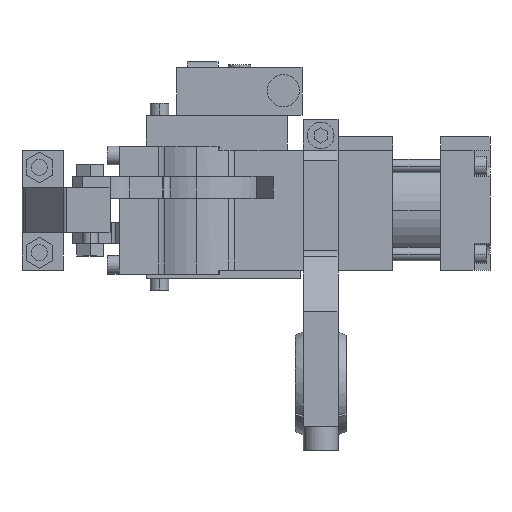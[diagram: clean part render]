
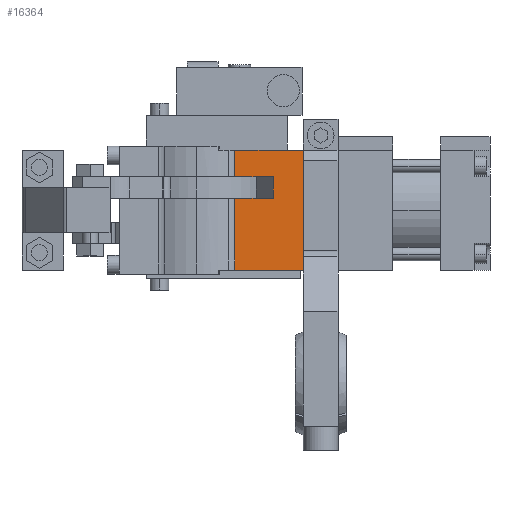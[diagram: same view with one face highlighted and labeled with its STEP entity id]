
A CAD part, left-side view. The second image highlights one B-rep face of the part: STEP entity #16364.
In plain terms, the highlighted planar face has unit normal (-1, 0, 0).
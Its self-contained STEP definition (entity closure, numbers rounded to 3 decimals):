
#50 = EDGE_CURVE ( 'NONE', #1057, #9130, #1426, .T. ) ;
#550 = ORIENTED_EDGE ( 'NONE', *, *, #50, .T. ) ;
#1057 = VERTEX_POINT ( 'NONE', #7237 ) ;
#1245 = LINE ( 'NONE', #8623, #8715 ) ;
#1295 = EDGE_CURVE ( 'NONE', #5122, #3365, #5116, .T. ) ;
#1426 = LINE ( 'NONE', #3435, #9907 ) ;
#1569 = VERTEX_POINT ( 'NONE', #9025 ) ;
#1721 = AXIS2_PLACEMENT_3D ( 'NONE', #13114, #6839, #17854 ) ;
#2025 = PLANE ( 'NONE',  #1721 ) ;
#2440 = EDGE_CURVE ( 'NONE', #3422, #19897, #1245, .T. ) ;
#3021 = EDGE_CURVE ( 'NONE', #1569, #5122, #9949, .T. ) ;
#3365 = VERTEX_POINT ( 'NONE', #20209 ) ;
#3422 = VERTEX_POINT ( 'NONE', #16602 ) ;
#3435 = CARTESIAN_POINT ( 'NONE',  ( -22.5, -40., -22.5 ) ) ;
#4516 = LINE ( 'NONE', #16299, #9224 ) ;
#5116 = LINE ( 'NONE', #15178, #13028 ) ;
#5122 = VERTEX_POINT ( 'NONE', #9870 ) ;
#5449 = CARTESIAN_POINT ( 'NONE',  ( -22.5, -40., -22.5 ) ) ;
#5827 = EDGE_CURVE ( 'NONE', #1569, #9130, #4516, .T. ) ;
#5977 = LINE ( 'NONE', #7955, #10182 ) ;
#6225 = VECTOR ( 'NONE', #10521, 1000. ) ;
#6364 = ORIENTED_EDGE ( 'NONE', *, *, #3021, .T. ) ;
#6839 = DIRECTION ( 'NONE',  ( 1., 0., 0. ) ) ;
#6861 = DIRECTION ( 'NONE',  ( 0., 0., -1. ) ) ;
#7237 = CARTESIAN_POINT ( 'NONE',  ( -22.5, -14.309, -22.5 ) ) ;
#7245 = VECTOR ( 'NONE', #8260, 1000. ) ;
#7955 = CARTESIAN_POINT ( 'NONE',  ( -22.5, -14.309, 12.5 ) ) ;
#8260 = DIRECTION ( 'NONE',  ( 0., 0., 1. ) ) ;
#8623 = CARTESIAN_POINT ( 'NONE',  ( -22.5, -14.309, 4.5 ) ) ;
#8715 = VECTOR ( 'NONE', #10213, 1000. ) ;
#9025 = CARTESIAN_POINT ( 'NONE',  ( -22.5, -40., 22.5 ) ) ;
#9130 = VERTEX_POINT ( 'NONE', #5449 ) ;
#9224 = VECTOR ( 'NONE', #6861, 1000. ) ;
#9859 = CARTESIAN_POINT ( 'NONE',  ( -22.5, -28.702, 12.5 ) ) ;
#9870 = CARTESIAN_POINT ( 'NONE',  ( -22.5, -14.309, 22.5 ) ) ;
#9907 = VECTOR ( 'NONE', #11513, 1000. ) ;
#9949 = LINE ( 'NONE', #10596, #6225 ) ;
#10182 = VECTOR ( 'NONE', #20511, 1000. ) ;
#10211 = VERTEX_POINT ( 'NONE', #17697 ) ;
#10213 = DIRECTION ( 'NONE',  ( 0., 1., 0. ) ) ;
#10521 = DIRECTION ( 'NONE',  ( 0., 1., 0. ) ) ;
#10596 = CARTESIAN_POINT ( 'NONE',  ( -22.5, -40., 22.5 ) ) ;
#11513 = DIRECTION ( 'NONE',  ( 0., -1., 0. ) ) ;
#11783 = LINE ( 'NONE', #17435, #19110 ) ;
#13028 = VECTOR ( 'NONE', #15204, 1000. ) ;
#13114 = CARTESIAN_POINT ( 'NONE',  ( -22.5, -14.309, 12.5 ) ) ;
#13369 = EDGE_CURVE ( 'NONE', #10211, #3365, #11783, .T. ) ;
#14266 = ORIENTED_EDGE ( 'NONE', *, *, #20190, .T. ) ;
#15039 = CARTESIAN_POINT ( 'NONE',  ( -22.5, -14.309, 4.5 ) ) ;
#15118 = EDGE_LOOP ( 'NONE', ( #18379, #18417, #17160, #14266, #550, #16764, #6364, #15669 ) ) ;
#15178 = CARTESIAN_POINT ( 'NONE',  ( -22.5, -14.309, 12.5 ) ) ;
#15204 = DIRECTION ( 'NONE',  ( 0., 0., -1. ) ) ;
#15211 = EDGE_CURVE ( 'NONE', #3422, #10211, #15610, .T. ) ;
#15610 = LINE ( 'NONE', #9859, #7245 ) ;
#15669 = ORIENTED_EDGE ( 'NONE', *, *, #1295, .T. ) ;
#15811 = FACE_OUTER_BOUND ( 'NONE', #15118, .T. ) ;
#15912 = DIRECTION ( 'NONE',  ( 0., 1., 0. ) ) ;
#16299 = CARTESIAN_POINT ( 'NONE',  ( -22.5, -40., 12.5 ) ) ;
#16364 = ADVANCED_FACE ( 'NONE', ( #15811 ), #2025, .F. ) ;
#16602 = CARTESIAN_POINT ( 'NONE',  ( -22.5, -28.702, 4.5 ) ) ;
#16764 = ORIENTED_EDGE ( 'NONE', *, *, #5827, .F. ) ;
#17160 = ORIENTED_EDGE ( 'NONE', *, *, #2440, .T. ) ;
#17435 = CARTESIAN_POINT ( 'NONE',  ( -22.5, -14.309, 12.5 ) ) ;
#17697 = CARTESIAN_POINT ( 'NONE',  ( -22.5, -28.702, 12.5 ) ) ;
#17854 = DIRECTION ( 'NONE',  ( 0., 1., 0. ) ) ;
#18379 = ORIENTED_EDGE ( 'NONE', *, *, #13369, .F. ) ;
#18417 = ORIENTED_EDGE ( 'NONE', *, *, #15211, .F. ) ;
#19110 = VECTOR ( 'NONE', #15912, 1000. ) ;
#19897 = VERTEX_POINT ( 'NONE', #15039 ) ;
#20190 = EDGE_CURVE ( 'NONE', #19897, #1057, #5977, .T. ) ;
#20209 = CARTESIAN_POINT ( 'NONE',  ( -22.5, -14.309, 12.5 ) ) ;
#20511 = DIRECTION ( 'NONE',  ( 0., 0., -1. ) ) ;
